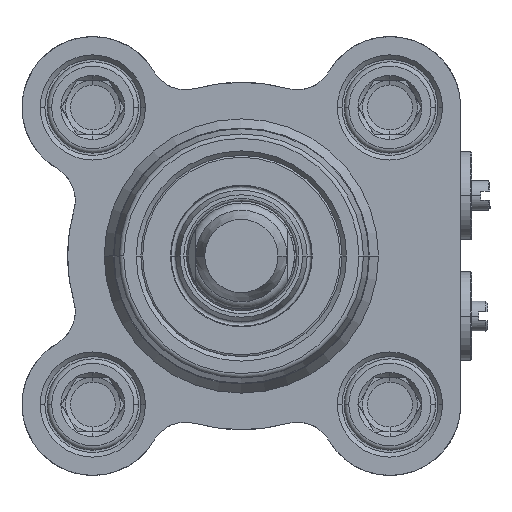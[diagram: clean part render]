
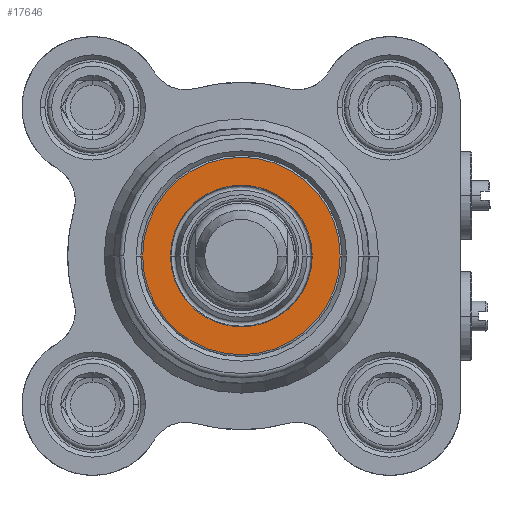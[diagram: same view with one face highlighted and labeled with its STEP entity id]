
A CAD part, front view. The second image highlights one B-rep face of the part: STEP entity #17646.
In plain terms, the highlighted planar face has unit normal (0, -1, 0).
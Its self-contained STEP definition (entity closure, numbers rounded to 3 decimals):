
#445 = CARTESIAN_POINT ( 'NONE',  ( 0., -89.3, -10.8 ) ) ;
#735 = AXIS2_PLACEMENT_3D ( 'NONE', #17807, #5508, #7370 ) ;
#1194 = CARTESIAN_POINT ( 'NONE',  ( -10.8, -89.3, 0. ) ) ;
#1839 = DIRECTION ( 'NONE',  ( -1., 0., 0. ) ) ;
#2949 = VERTEX_POINT ( 'NONE', #14237 ) ;
#3679 = CIRCLE ( 'NONE', #19547, 7.75 ) ;
#3951 = ORIENTED_EDGE ( 'NONE', *, *, #14101, .F. ) ;
#4479 = CARTESIAN_POINT ( 'NONE',  ( 0., -89.3, 0. ) ) ;
#5508 = DIRECTION ( 'NONE',  ( 0., -1., 0. ) ) ;
#6567 = DIRECTION ( 'NONE',  ( -1., 0., 0. ) ) ;
#6594 = ORIENTED_EDGE ( 'NONE', *, *, #13170, .F. ) ;
#7370 = DIRECTION ( 'NONE',  ( -1., 0., 0. ) ) ;
#8283 = DIRECTION ( 'NONE',  ( 0., 0., -1. ) ) ;
#10637 = FACE_BOUND ( 'NONE', #15526, .T. ) ;
#11031 = DIRECTION ( 'NONE',  ( 0., -1., 0. ) ) ;
#11598 = CIRCLE ( 'NONE', #735, 10.8 ) ;
#12133 = CARTESIAN_POINT ( 'NONE',  ( 7.75, -89.3, 0. ) ) ;
#12328 = DIRECTION ( 'NONE',  ( 0., -1., 0. ) ) ;
#12453 = AXIS2_PLACEMENT_3D ( 'NONE', #14559, #11031, #18987 ) ;
#13170 = EDGE_CURVE ( 'NONE', #15671, #18321, #16589, .T. ) ;
#14101 = EDGE_CURVE ( 'NONE', #18321, #15671, #3679, .T. ) ;
#14237 = CARTESIAN_POINT ( 'NONE',  ( 10.8, -89.3, 0. ) ) ;
#14559 = CARTESIAN_POINT ( 'NONE',  ( 0., -89.3, 0. ) ) ;
#15025 = EDGE_CURVE ( 'NONE', #18174, #2949, #20377, .T. ) ;
#15526 = EDGE_LOOP ( 'NONE', ( #6594, #3951 ) ) ;
#15671 = VERTEX_POINT ( 'NONE', #22558 ) ;
#16589 = CIRCLE ( 'NONE', #19914, 7.75 ) ;
#16644 = FACE_OUTER_BOUND ( 'NONE', #16847, .T. ) ;
#16835 = AXIS2_PLACEMENT_3D ( 'NONE', #445, #24355, #8283 ) ;
#16847 = EDGE_LOOP ( 'NONE', ( #20847, #20660 ) ) ;
#17646 = ADVANCED_FACE ( 'NONE', ( #16644, #10637 ), #22117, .F. ) ;
#17807 = CARTESIAN_POINT ( 'NONE',  ( 0., -89.3, 0. ) ) ;
#18174 = VERTEX_POINT ( 'NONE', #1194 ) ;
#18321 = VERTEX_POINT ( 'NONE', #12133 ) ;
#18987 = DIRECTION ( 'NONE',  ( -1., 0., 0. ) ) ;
#19547 = AXIS2_PLACEMENT_3D ( 'NONE', #19849, #21928, #1839 ) ;
#19849 = CARTESIAN_POINT ( 'NONE',  ( 0., -89.3, 0. ) ) ;
#19914 = AXIS2_PLACEMENT_3D ( 'NONE', #4479, #12328, #6567 ) ;
#20377 = CIRCLE ( 'NONE', #12453, 10.8 ) ;
#20660 = ORIENTED_EDGE ( 'NONE', *, *, #15025, .T. ) ;
#20847 = ORIENTED_EDGE ( 'NONE', *, *, #23027, .T. ) ;
#21928 = DIRECTION ( 'NONE',  ( 0., -1., 0. ) ) ;
#22117 = PLANE ( 'NONE',  #16835 ) ;
#22558 = CARTESIAN_POINT ( 'NONE',  ( -7.75, -89.3, 0. ) ) ;
#23027 = EDGE_CURVE ( 'NONE', #2949, #18174, #11598, .T. ) ;
#24355 = DIRECTION ( 'NONE',  ( 0., 1., 0. ) ) ;
